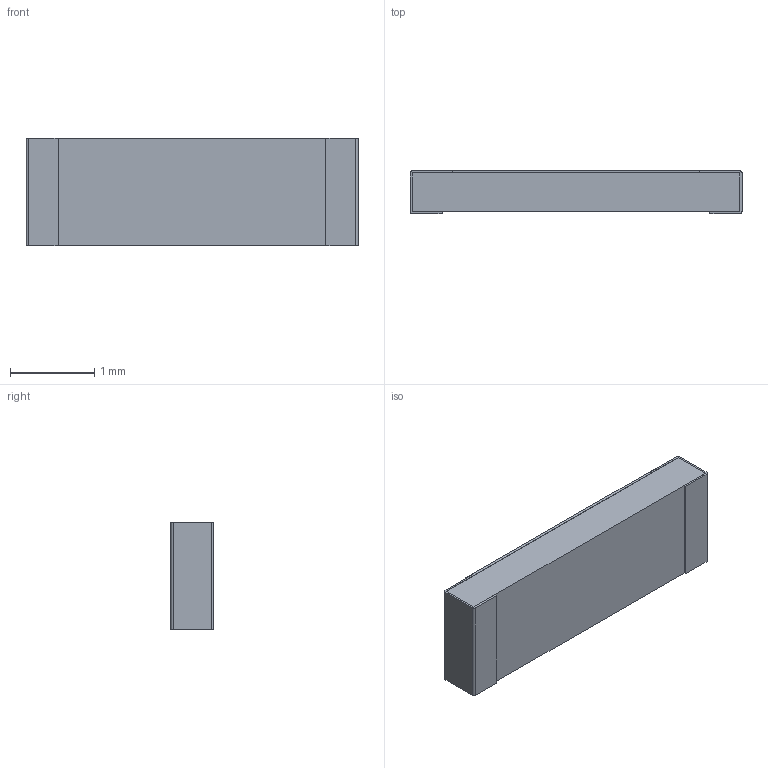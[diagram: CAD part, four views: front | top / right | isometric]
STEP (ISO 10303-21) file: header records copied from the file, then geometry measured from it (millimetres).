
FILE_DESCRIPTION(/* description */ (''),/* implementation_level */ '2;1');
FILE_NAME(/* name */ 'C:\Users\Public\Documents\Autodesk\Inventor LT 2014\Workspace\Vishay\STEP Files\PTN1505.stp',/* time_stamp */ '2020-01-08T14:52:15-06:00',/* author */ ('Neil'),/* organization */ (''),/* preprocessor_version */ 'ST-DEVELOPER v15.2',/* originating_system */ 'Autodesk Inventor LT ',/* authorisation */ '');
FILE_SCHEMA (('AUTOMOTIVE_DESIGN { 1 0 10303 214 3 1 1 }'));
Length unit declared in the file: inch
Products named in the file (1): PTN1505
Bounding box: 3.94 x 0.52 x 1.27 mm (x, y, z)
Volume: 2.5 mm3; surface area: 35.3 mm2
Topology: 5 solids, 5 shells, 98 faces, 264 edges, 176 vertices
Faces by surface type: plane 82, cylinder 16
Entity records: 3090 total; most frequent: CARTESIAN_POINT 539, ORIENTED_EDGE 528, DIRECTION 494, EDGE_CURVE 264, LINE 232, VECTOR 232, VERTEX_POINT 176, AXIS2_PLACEMENT_3D 131
